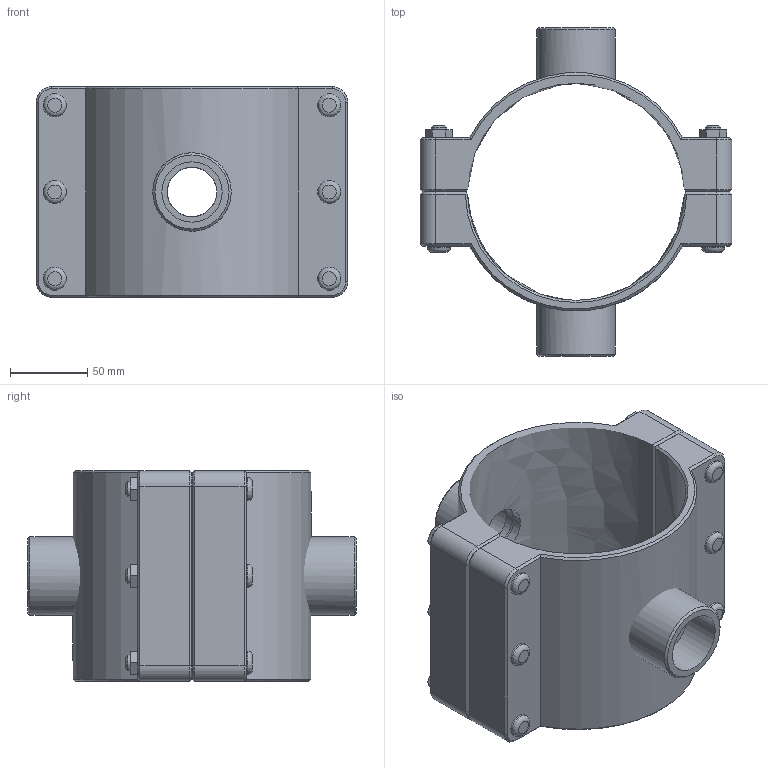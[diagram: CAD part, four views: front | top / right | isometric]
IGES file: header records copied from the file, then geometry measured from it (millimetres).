
Global section: file name: 161760140013_161860140013.ipt; native system: Autodesk Inventor 2015; preprocessor: unknown; author: KIM; date: 20170618.093759; units: millimetre
Bounding box: 201 x 212 x 136 mm (x, y, z)
Volume: 986363 mm3; surface area: 189395.5 mm2
Topology: 3 solids, 3 shells, 179 faces, 416 edges, 265 vertices
Faces by surface type: plane 102, cylinder 30, cone 28, revolution 19
Full cylindrical faces by diameter (mm): 10 x6, 15 x12, 50.638 x2
